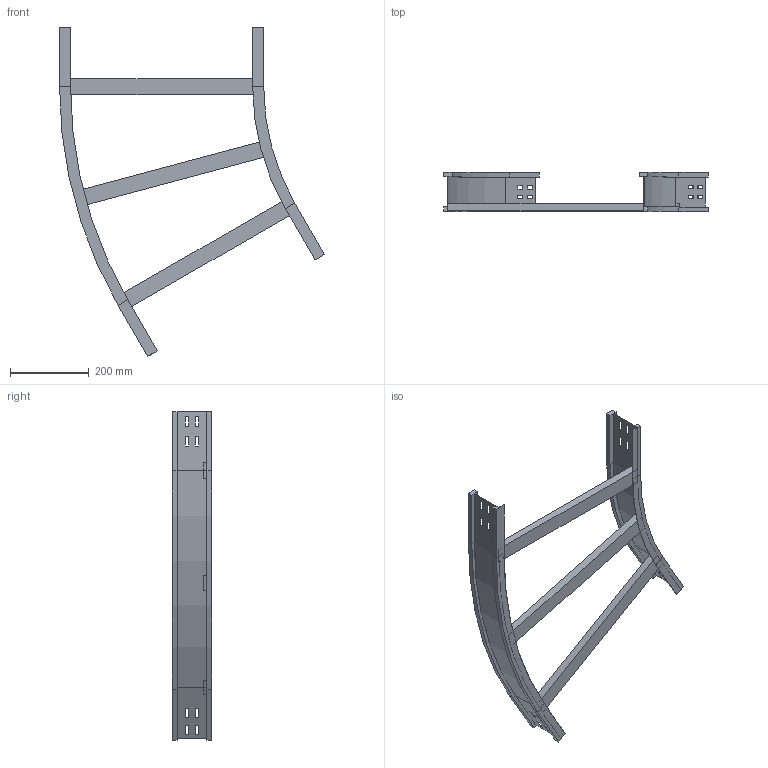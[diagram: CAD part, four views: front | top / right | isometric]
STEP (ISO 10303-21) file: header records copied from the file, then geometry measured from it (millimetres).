
FILE_DESCRIPTION (( 'STEP AP214' ), '1' );
FILE_NAME ('12S6D500.step', '2025-02-21T16:01:29', ( '' ), ( '' ), 'SwSTEP 2.0', 'SolidWorks 2023', '' );
FILE_SCHEMA (( 'AUTOMOTIVE_DESIGN' ));
Length unit declared in the file: millimetre
Products named in the file (4): LONGH.INTERNO30°_H100_R600; 12S6D500; TRAVERSINO_500; LONGH.ESTERNO 30°_H100_R600+500
Assembly tree (5 placements, depth 2):
  12S6D500
    LONGH.INTERNO30°_H100_R600
    LONGH.ESTERNO 30°_H100_R600+500
    TRAVERSINO_500  x3
Bounding box: 672.18 x 100 x 834.4 mm (x, y, z)
Volume: 1992445 mm3; surface area: 624389 mm2
Topology: 5 solids, 5 shells, 158 faces, 396 edges, 248 vertices
Faces by surface type: plane 146, cylinder 12
Entity records: 4477 total; most frequent: CARTESIAN_POINT 758, ORIENTED_EDGE 744, DIRECTION 704, EDGE_CURVE 372, LINE 348, VECTOR 348, VERTEX_POINT 232, EDGE_LOOP 178
